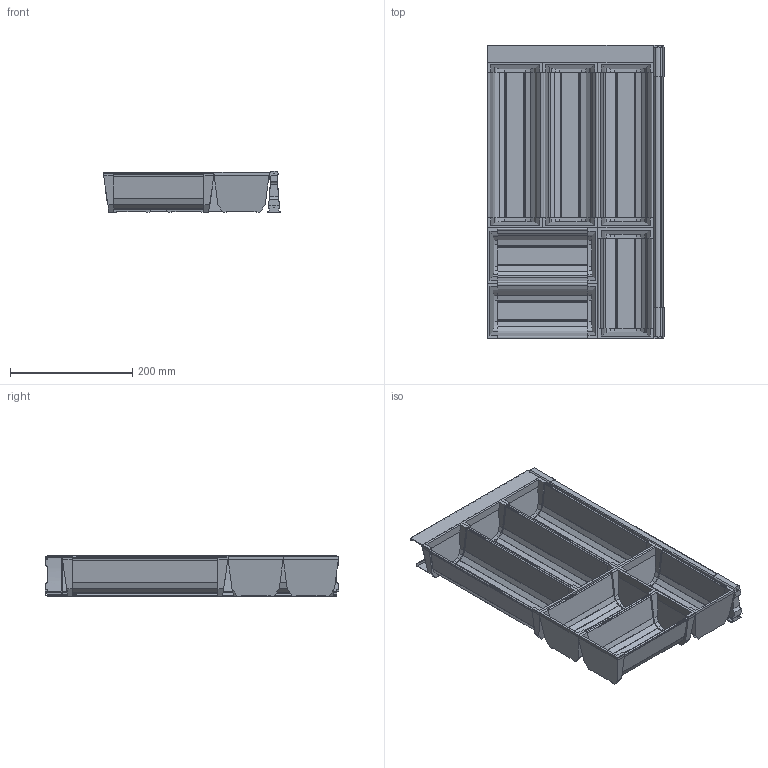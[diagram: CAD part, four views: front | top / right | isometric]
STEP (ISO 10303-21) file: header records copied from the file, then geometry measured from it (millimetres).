
FILE_DESCRIPTION (( 'STEP AP214' ), '1' );
FILE_NAME ('Inoxsys_B3_NL-500.STEP', '2010-08-17T11:54:07', ( 'grass' ), ( '' ), 'SwSTEP 2.0', 'SolidWorks 2010', '' );
FILE_SCHEMA (( 'AUTOMOTIVE_DESIGN' ));
Length unit declared in the file: millimetre
Products named in the file (1): Inoxsys_B3_NL-500
Bounding box: 290.01 x 481 x 67.5 mm (x, y, z)
Volume: 846166.3 mm3; surface area: 760574.8 mm2
Topology: 8 solids, 8 shells, 813 faces, 2355 edges, 1570 vertices
Faces by surface type: plane 551, cylinder 262
Entity records: 35857 total; most frequent: CARTESIAN_POINT 5021, ORIENTED_EDGE 4710, DIRECTION 4431, EDGE_CURVE 2355, VECTOR 1791, LINE 1791, VERTEX_POINT 1570, AXIS2_PLACEMENT_3D 1320
